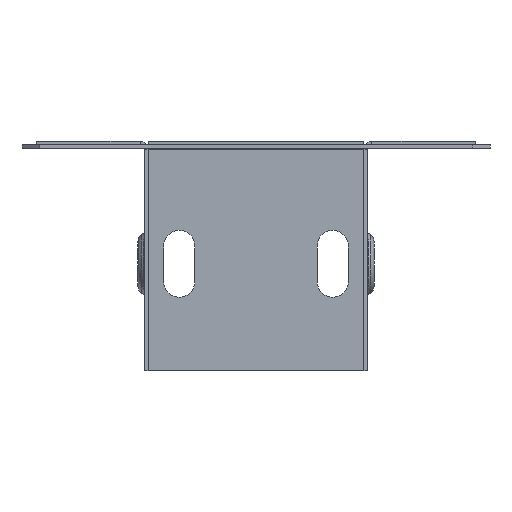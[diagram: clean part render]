
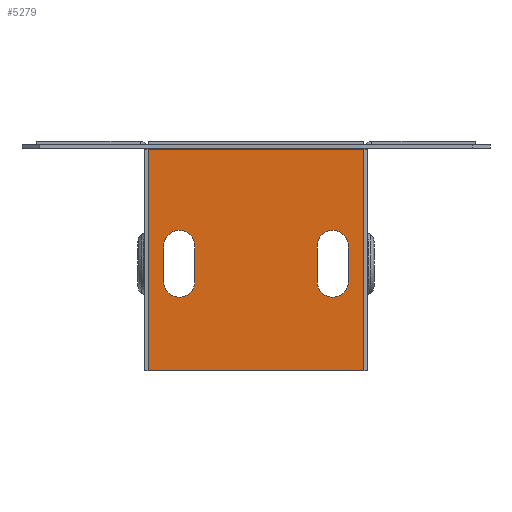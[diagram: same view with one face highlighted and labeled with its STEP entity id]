
A CAD part, left-side view. The second image highlights one B-rep face of the part: STEP entity #5279.
In plain terms, the highlighted planar face has unit normal (-1, 0, 0) as drawn and (0, 1, 0) by its records, which use the part's own axes.
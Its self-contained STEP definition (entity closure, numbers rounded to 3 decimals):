
#191 = EDGE_CURVE ( 'NONE', #568, #816, #6068, .T. ) ;
#228 = VECTOR ( 'NONE', #6128, 1000. ) ;
#247 = ORIENTED_EDGE ( 'NONE', *, *, #775, .T. ) ;
#287 = EDGE_LOOP ( 'NONE', ( #3840, #1521, #1671, #4273, #247 ) ) ;
#308 = EDGE_CURVE ( 'NONE', #816, #5573, #4331, .T. ) ;
#325 = CARTESIAN_POINT ( 'NONE',  ( -20.7, 0.8, 31.5 ) ) ;
#433 = CARTESIAN_POINT ( 'NONE',  ( -17.2, 0.8, 31.5 ) ) ;
#434 = EDGE_LOOP ( 'NONE', ( #6221, #5260, #2996, #4427 ) ) ;
#459 = VECTOR ( 'NONE', #2744, 1000. ) ;
#524 = CIRCLE ( 'NONE', #6156, 3.5 ) ;
#535 = FACE_OUTER_BOUND ( 'NONE', #434, .T. ) ;
#564 = EDGE_CURVE ( 'NONE', #1104, #1364, #524, .T. ) ;
#568 = VERTEX_POINT ( 'NONE', #3674 ) ;
#672 = CARTESIAN_POINT ( 'NONE',  ( -24.2, 0.8, 1.8 ) ) ;
#716 = EDGE_CURVE ( 'NONE', #568, #3033, #6209, .T. ) ;
#756 = VECTOR ( 'NONE', #2305, 1000. ) ;
#758 = CIRCLE ( 'NONE', #5125, 3.5 ) ;
#775 = EDGE_CURVE ( 'NONE', #2617, #3782, #4637, .T. ) ;
#816 = VERTEX_POINT ( 'NONE', #4161 ) ;
#961 = DIRECTION ( 'NONE',  ( 0., 1., 0. ) ) ;
#1036 = AXIS2_PLACEMENT_3D ( 'NONE', #6262, #961, #5725 ) ;
#1056 = VECTOR ( 'NONE', #1112, 1000. ) ;
#1083 = CARTESIAN_POINT ( 'NONE',  ( 17.2, 0.8, 35. ) ) ;
#1104 = VERTEX_POINT ( 'NONE', #4739 ) ;
#1112 = DIRECTION ( 'NONE',  ( 0., 0., 1. ) ) ;
#1134 = CARTESIAN_POINT ( 'NONE',  ( -13.7, 0.8, 23.5 ) ) ;
#1358 = LINE ( 'NONE', #1581, #1056 ) ;
#1364 = VERTEX_POINT ( 'NONE', #2483 ) ;
#1440 = VECTOR ( 'NONE', #4570, 1000. ) ;
#1457 = DIRECTION ( 'NONE',  ( 0., 1., 0. ) ) ;
#1477 = CIRCLE ( 'NONE', #3178, 3.5 ) ;
#1492 = LINE ( 'NONE', #325, #228 ) ;
#1521 = ORIENTED_EDGE ( 'NONE', *, *, #564, .T. ) ;
#1531 = DIRECTION ( 'NONE',  ( 0., 0., 1. ) ) ;
#1555 = EDGE_CURVE ( 'NONE', #4447, #2465, #2760, .T. ) ;
#1581 = CARTESIAN_POINT ( 'NONE',  ( -24.2, 0.8, 0. ) ) ;
#1594 = ORIENTED_EDGE ( 'NONE', *, *, #2204, .F. ) ;
#1658 = DIRECTION ( 'NONE',  ( 0., 0., 1. ) ) ;
#1663 = FACE_BOUND ( 'NONE', #3652, .T. ) ;
#1671 = ORIENTED_EDGE ( 'NONE', *, *, #3730, .T. ) ;
#1745 = CIRCLE ( 'NONE', #5942, 3.5 ) ;
#1779 = DIRECTION ( 'NONE',  ( 0., -1., 0. ) ) ;
#2204 = EDGE_CURVE ( 'NONE', #2995, #4447, #5993, .T. ) ;
#2206 = DIRECTION ( 'NONE',  ( 0., -1., 0. ) ) ;
#2276 = LINE ( 'NONE', #5060, #5988 ) ;
#2305 = DIRECTION ( 'NONE',  ( 0., 0., 1. ) ) ;
#2465 = VERTEX_POINT ( 'NONE', #4093 ) ;
#2466 = VERTEX_POINT ( 'NONE', #3990 ) ;
#2483 = CARTESIAN_POINT ( 'NONE',  ( -20.7, 0.8, 31.5 ) ) ;
#2515 = EDGE_CURVE ( 'NONE', #5160, #2617, #758, .T. ) ;
#2539 = CARTESIAN_POINT ( 'NONE',  ( -17.2, 0.8, 23.5 ) ) ;
#2546 = DIRECTION ( 'NONE',  ( 0., -1., 0. ) ) ;
#2617 = VERTEX_POINT ( 'NONE', #1134 ) ;
#2744 = DIRECTION ( 'NONE',  ( -1., 0., 0. ) ) ;
#2760 = LINE ( 'NONE', #4436, #1440 ) ;
#2865 = CARTESIAN_POINT ( 'NONE',  ( 24.2, 0.8, 51.5 ) ) ;
#2995 = VERTEX_POINT ( 'NONE', #1083 ) ;
#2996 = ORIENTED_EDGE ( 'NONE', *, *, #191, .F. ) ;
#3013 = CARTESIAN_POINT ( 'NONE',  ( 24.2, 0.8, 0. ) ) ;
#3033 = VERTEX_POINT ( 'NONE', #672 ) ;
#3155 = FACE_BOUND ( 'NONE', #287, .T. ) ;
#3178 = AXIS2_PLACEMENT_3D ( 'NONE', #4380, #1457, #4882 ) ;
#3507 = PLANE ( 'NONE',  #6152 ) ;
#3560 = EDGE_CURVE ( 'NONE', #6264, #2466, #2276, .T. ) ;
#3632 = AXIS2_PLACEMENT_3D ( 'NONE', #4319, #4136, #4133 ) ;
#3652 = EDGE_LOOP ( 'NONE', ( #4583, #1594, #5633, #5928, #3693 ) ) ;
#3667 = VECTOR ( 'NONE', #5815, 1000. ) ;
#3674 = CARTESIAN_POINT ( 'NONE',  ( 24.2, 0.8, 1.8 ) ) ;
#3678 = VECTOR ( 'NONE', #5093, 1000. ) ;
#3688 = EDGE_CURVE ( 'NONE', #2466, #2995, #5546, .T. ) ;
#3693 = ORIENTED_EDGE ( 'NONE', *, *, #4726, .F. ) ;
#3730 = EDGE_CURVE ( 'NONE', #1364, #5160, #1492, .T. ) ;
#3782 = VERTEX_POINT ( 'NONE', #5258 ) ;
#3840 = ORIENTED_EDGE ( 'NONE', *, *, #5089, .T. ) ;
#3984 = DIRECTION ( 'NONE',  ( 0., 0., -1. ) ) ;
#3990 = CARTESIAN_POINT ( 'NONE',  ( 13.7, 0.8, 31.5 ) ) ;
#4093 = CARTESIAN_POINT ( 'NONE',  ( 20.7, 0.8, 23.5 ) ) ;
#4133 = DIRECTION ( 'NONE',  ( 0., 0., 1. ) ) ;
#4136 = DIRECTION ( 'NONE',  ( 0., 1., 0. ) ) ;
#4161 = CARTESIAN_POINT ( 'NONE',  ( 24.2, 0.8, 51.5 ) ) ;
#4273 = ORIENTED_EDGE ( 'NONE', *, *, #2515, .T. ) ;
#4319 = CARTESIAN_POINT ( 'NONE',  ( 17.2, 0.8, 31.5 ) ) ;
#4331 = LINE ( 'NONE', #2865, #459 ) ;
#4380 = CARTESIAN_POINT ( 'NONE',  ( 17.2, 0.8, 23.5 ) ) ;
#4427 = ORIENTED_EDGE ( 'NONE', *, *, #716, .T. ) ;
#4436 = CARTESIAN_POINT ( 'NONE',  ( 20.7, 0.8, 31.5 ) ) ;
#4447 = VERTEX_POINT ( 'NONE', #4688 ) ;
#4570 = DIRECTION ( 'NONE',  ( 0., 0., -1. ) ) ;
#4583 = ORIENTED_EDGE ( 'NONE', *, *, #1555, .F. ) ;
#4593 = CARTESIAN_POINT ( 'NONE',  ( -24.2, 0.8, 51.5 ) ) ;
#4637 = LINE ( 'NONE', #5363, #756 ) ;
#4688 = CARTESIAN_POINT ( 'NONE',  ( 20.7, 0.8, 31.5 ) ) ;
#4726 = EDGE_CURVE ( 'NONE', #2465, #6264, #1477, .T. ) ;
#4728 = CARTESIAN_POINT ( 'NONE',  ( -17.2, 0.8, 31.5 ) ) ;
#4739 = CARTESIAN_POINT ( 'NONE',  ( -17.2, 0.8, 35. ) ) ;
#4882 = DIRECTION ( 'NONE',  ( 0., 0., 1. ) ) ;
#4933 = DIRECTION ( 'NONE',  ( 0., -1., 0. ) ) ;
#5060 = CARTESIAN_POINT ( 'NONE',  ( 13.7, 0.8, 31.5 ) ) ;
#5073 = CARTESIAN_POINT ( 'NONE',  ( 24.2, 0.8, 0. ) ) ;
#5089 = EDGE_CURVE ( 'NONE', #3782, #1104, #1745, .T. ) ;
#5093 = DIRECTION ( 'NONE',  ( 0., 0., 1. ) ) ;
#5125 = AXIS2_PLACEMENT_3D ( 'NONE', #2539, #2206, #1531 ) ;
#5160 = VERTEX_POINT ( 'NONE', #5784 ) ;
#5203 = CARTESIAN_POINT ( 'NONE',  ( 13.7, 0.8, 23.5 ) ) ;
#5212 = DIRECTION ( 'NONE',  ( 0., 0., 1. ) ) ;
#5258 = CARTESIAN_POINT ( 'NONE',  ( -13.7, 0.8, 31.5 ) ) ;
#5260 = ORIENTED_EDGE ( 'NONE', *, *, #308, .F. ) ;
#5279 = ADVANCED_FACE ( 'NONE', ( #535, #1663, #3155 ), #3507, .F. ) ;
#5363 = CARTESIAN_POINT ( 'NONE',  ( -13.7, 0.8, 31.5 ) ) ;
#5434 = EDGE_CURVE ( 'NONE', #3033, #5573, #1358, .T. ) ;
#5546 = CIRCLE ( 'NONE', #1036, 3.5 ) ;
#5573 = VERTEX_POINT ( 'NONE', #4593 ) ;
#5633 = ORIENTED_EDGE ( 'NONE', *, *, #3688, .F. ) ;
#5725 = DIRECTION ( 'NONE',  ( 0., 0., 1. ) ) ;
#5784 = CARTESIAN_POINT ( 'NONE',  ( -20.7, 0.8, 23.5 ) ) ;
#5815 = DIRECTION ( 'NONE',  ( -1., 0., 0. ) ) ;
#5928 = ORIENTED_EDGE ( 'NONE', *, *, #3560, .F. ) ;
#5942 = AXIS2_PLACEMENT_3D ( 'NONE', #4728, #1779, #5212 ) ;
#5988 = VECTOR ( 'NONE', #1658, 1000. ) ;
#5993 = CIRCLE ( 'NONE', #3632, 3.5 ) ;
#6031 = CARTESIAN_POINT ( 'NONE',  ( 24.2, 0.8, 1.8 ) ) ;
#6068 = LINE ( 'NONE', #5073, #3678 ) ;
#6128 = DIRECTION ( 'NONE',  ( 0., 0., -1. ) ) ;
#6137 = DIRECTION ( 'NONE',  ( 0., 0., 1. ) ) ;
#6152 = AXIS2_PLACEMENT_3D ( 'NONE', #3013, #4933, #3984 ) ;
#6156 = AXIS2_PLACEMENT_3D ( 'NONE', #433, #2546, #6137 ) ;
#6209 = LINE ( 'NONE', #6031, #3667 ) ;
#6221 = ORIENTED_EDGE ( 'NONE', *, *, #5434, .T. ) ;
#6262 = CARTESIAN_POINT ( 'NONE',  ( 17.2, 0.8, 31.5 ) ) ;
#6264 = VERTEX_POINT ( 'NONE', #5203 ) ;
